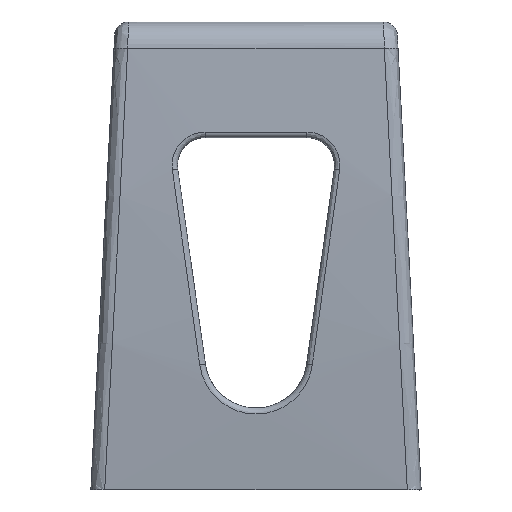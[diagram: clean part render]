
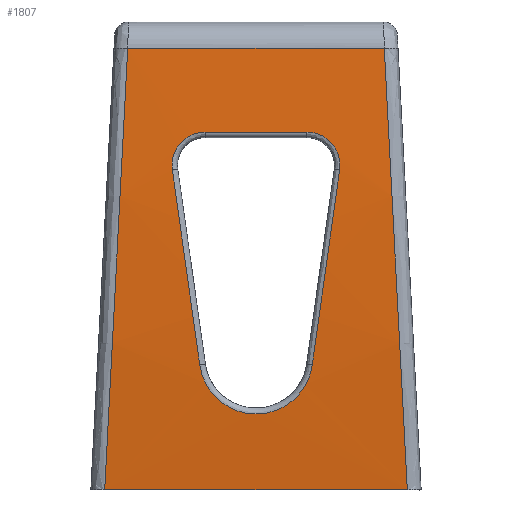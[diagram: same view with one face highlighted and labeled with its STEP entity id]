
A CAD part, front view. The second image highlights one B-rep face of the part: STEP entity #1807.
In plain terms, the highlighted cylindrical face has radius 635.043 mm (diameter 1270.09 mm), a partial arc.
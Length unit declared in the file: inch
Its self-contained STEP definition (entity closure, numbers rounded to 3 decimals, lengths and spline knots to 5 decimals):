
#19=FACE_BOUND('',#482,.T.);
#66=ELLIPSE('',#1981,25.24759,25.00167);
#67=ELLIPSE('',#1987,25.24759,25.00167);
#70=ELLIPSE('',#1994,25.03564,25.00167);
#71=ELLIPSE('',#1995,25.03564,25.00167);
#160=LINE('',#3589,#231);
#161=LINE('',#3812,#232);
#168=LINE('',#3983,#239);
#231=VECTOR('',#2300,0.3937);
#232=VECTOR('',#2325,0.3937);
#239=VECTOR('',#2354,0.3937);
#291=CYLINDRICAL_SURFACE('',#1993,25.00167);
#364=FACE_OUTER_BOUND('',#481,.T.);
#481=EDGE_LOOP('',(#1413,#1414,#1415,#1416));
#482=EDGE_LOOP('',(#1417,#1418,#1419,#1420,#1421,#1422));
#594=B_SPLINE_CURVE_WITH_KNOTS('',3,(#3796,#3797,#3798,#3799,#3800,#3801),
 .UNSPECIFIED.,.F.,.F.,(4,1,1,4),(-1.30356,-0.74489,
-0.37245,0.),.UNSPECIFIED.);
#596=B_SPLINE_CURVE_WITH_KNOTS('',3,(#3847,#3848,#3849,#3850,#3851,#3852),
 .UNSPECIFIED.,.F.,.F.,(4,1,1,4),(-1.30356,-0.93111,
-0.55867,0.),.UNSPECIFIED.);
#598=B_SPLINE_CURVE_WITH_KNOTS('',3,(#3934,#3935,#3936,#3937,#3938,#3939,
#3940,#3941,#3942,#3943),.UNSPECIFIED.,.F.,.F.,(4,1,1,1,1,1,1,4),(-3.74901,
-3.21343,-2.67786,-2.14229,-1.60672,
-0.80336,-0.53557,0.),
 .UNSPECIFIED.);
#799=VERTEX_POINT('',#3559);
#800=VERTEX_POINT('',#3588);
#806=VERTEX_POINT('',#3755);
#809=VERTEX_POINT('',#3760);
#811=VERTEX_POINT('',#3794);
#813=VERTEX_POINT('',#3810);
#815=VERTEX_POINT('',#3845);
#817=VERTEX_POINT('',#3880);
#823=VERTEX_POINT('',#3979);
#824=VERTEX_POINT('',#3981);
#1005=EDGE_CURVE('',#800,#799,#160,.T.);
#1018=EDGE_CURVE('',#809,#806,#66,.T.);
#1020=EDGE_CURVE('',#811,#809,#594,.T.);
#1023=EDGE_CURVE('',#813,#811,#161,.T.);
#1026=EDGE_CURVE('',#815,#813,#596,.T.);
#1029=EDGE_CURVE('',#817,#815,#67,.T.);
#1031=EDGE_CURVE('',#806,#817,#598,.T.);
#1041=EDGE_CURVE('',#800,#823,#70,.T.);
#1042=EDGE_CURVE('',#824,#799,#71,.T.);
#1043=EDGE_CURVE('',#823,#824,#168,.T.);
#1413=ORIENTED_EDGE('',*,*,#1041,.F.);
#1414=ORIENTED_EDGE('',*,*,#1005,.T.);
#1415=ORIENTED_EDGE('',*,*,#1042,.F.);
#1416=ORIENTED_EDGE('',*,*,#1043,.F.);
#1417=ORIENTED_EDGE('',*,*,#1018,.F.);
#1418=ORIENTED_EDGE('',*,*,#1020,.F.);
#1419=ORIENTED_EDGE('',*,*,#1023,.F.);
#1420=ORIENTED_EDGE('',*,*,#1026,.F.);
#1421=ORIENTED_EDGE('',*,*,#1029,.F.);
#1422=ORIENTED_EDGE('',*,*,#1031,.F.);
#1807=ADVANCED_FACE('',(#364,#19),#291,.T.);
#1981=AXIS2_PLACEMENT_3D('',#3762,#2317,#2318);
#1987=AXIS2_PLACEMENT_3D('',#3882,#2331,#2332);
#1993=AXIS2_PLACEMENT_3D('',#3978,#2348,#2349);
#1994=AXIS2_PLACEMENT_3D('',#3980,#2350,#2351);
#1995=AXIS2_PLACEMENT_3D('',#3982,#2352,#2353);
#2300=DIRECTION('',(1.,0.,0.));
#2317=DIRECTION('center_axis',(0.99,0.,
0.139));
#2318=DIRECTION('ref_axis',(0.139,0.,-0.99));
#2325=DIRECTION('',(-1.,0.,0.));
#2331=DIRECTION('center_axis',(-0.99,0.,
0.139));
#2332=DIRECTION('ref_axis',(-0.139,0.,-0.99));
#2348=DIRECTION('center_axis',(1.,0.,0.));
#2349=DIRECTION('ref_axis',(0.,-0.999,0.04));
#2350=DIRECTION('center_axis',(-0.999,0.,
0.052));
#2351=DIRECTION('ref_axis',(-0.052,0.,-0.999));
#2352=DIRECTION('center_axis',(0.999,0.,0.052));
#2353=DIRECTION('ref_axis',(0.052,0.,-0.999));
#2354=DIRECTION('',(1.,0.,0.));
#3559=CARTESIAN_POINT('',(1.37404,-0.85,0.));
#3588=CARTESIAN_POINT('',(-1.37404,-0.85,0.));
#3589=CARTESIAN_POINT('',(0.,-0.85,0.));
#3755=CARTESIAN_POINT('',(-0.50996,-0.96108,1.13406));
#3760=CARTESIAN_POINT('',(-0.75938,-1.0309,2.90796));
#3762=CARTESIAN_POINT('Origin',(-0.77283,23.97059,3.00367));
#3794=CARTESIAN_POINT('',(-0.46231,-1.02987,3.25049));
#3796=CARTESIAN_POINT('Ctrl Pts',(-0.46231,-1.02987,
3.25049));
#3797=CARTESIAN_POINT('Ctrl Pts',(-0.53563,-1.02987,
3.25049));
#3798=CARTESIAN_POINT('Ctrl Pts',(-0.65719,-1.0304,
3.2034));
#3799=CARTESIAN_POINT('Ctrl Pts',(-0.75562,-1.03117,3.05663));
#3800=CARTESIAN_POINT('Ctrl Pts',(-0.7662,-1.03109,
2.95645));
#3801=CARTESIAN_POINT('Ctrl Pts',(-0.75938,-1.0309,2.90796));
#3810=CARTESIAN_POINT('',(0.46231,-1.02987,3.25049));
#3812=CARTESIAN_POINT('',(0.,-1.02987,3.25049));
#3845=CARTESIAN_POINT('',(0.75938,-1.0309,2.90796));
#3847=CARTESIAN_POINT('Ctrl Pts',(0.75938,-1.0309,2.90796));
#3848=CARTESIAN_POINT('Ctrl Pts',(0.7662,-1.03109,2.95645));
#3849=CARTESIAN_POINT('Ctrl Pts',(0.75562,-1.03117,3.05662));
#3850=CARTESIAN_POINT('Ctrl Pts',(0.6572,-1.0304,3.20339));
#3851=CARTESIAN_POINT('Ctrl Pts',(0.53563,-1.02987,3.25049));
#3852=CARTESIAN_POINT('Ctrl Pts',(0.46231,-1.02987,3.25049));
#3880=CARTESIAN_POINT('',(0.50996,-0.96108,1.13406));
#3882=CARTESIAN_POINT('Origin',(0.77283,23.97059,3.00367));
#3934=CARTESIAN_POINT('Ctrl Pts',(-0.50996,-0.96108,1.13406));
#3935=CARTESIAN_POINT('Ctrl Pts',(-0.50019,-0.95587,
1.06451));
#3936=CARTESIAN_POINT('Ctrl Pts',(-0.45193,-0.94513,
0.92957));
#3937=CARTESIAN_POINT('Ctrl Pts',(-0.30508,-0.9314,
0.77224));
#3938=CARTESIAN_POINT('Ctrl Pts',(-0.10775,-0.92349,
0.68658));
#3939=CARTESIAN_POINT('Ctrl Pts',(0.14379,-0.92344,
0.68614));
#3940=CARTESIAN_POINT('Ctrl Pts',(0.33604,-0.93347,
0.79441));
#3941=CARTESIAN_POINT('Ctrl Pts',(0.46384,-0.94783,
0.96344));
#3942=CARTESIAN_POINT('Ctrl Pts',(0.50019,-0.95587,1.06451));
#3943=CARTESIAN_POINT('Ctrl Pts',(0.50996,-0.96108,
1.13406));
#3978=CARTESIAN_POINT('Origin',(0.,23.97059,3.00367));
#3979=CARTESIAN_POINT('',(-1.16493,-1.01082,4.01006));
#3980=CARTESIAN_POINT('Origin',(-1.21741,23.97059,3.00367));
#3981=CARTESIAN_POINT('',(1.16493,-1.01082,4.01006));
#3982=CARTESIAN_POINT('Origin',(1.21741,23.97059,3.00367));
#3983=CARTESIAN_POINT('',(0.,-1.01082,4.01006));
